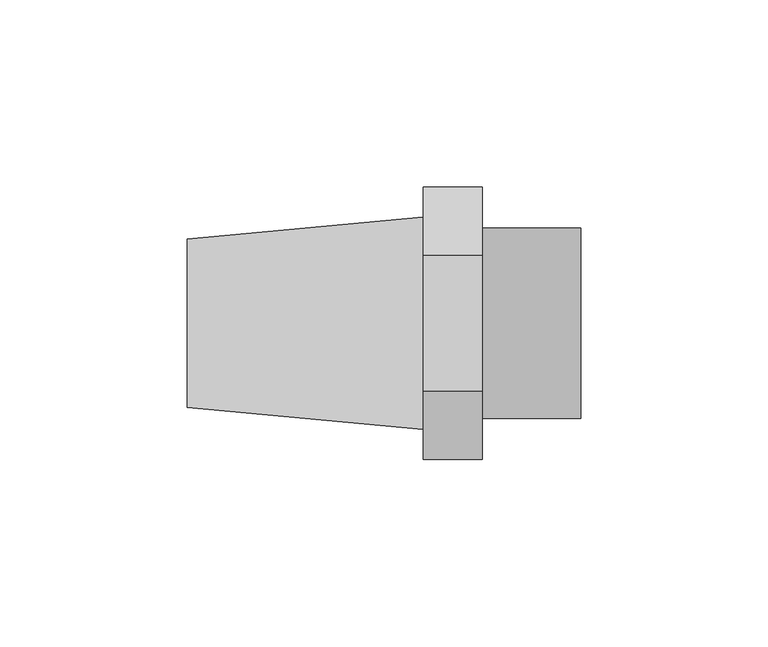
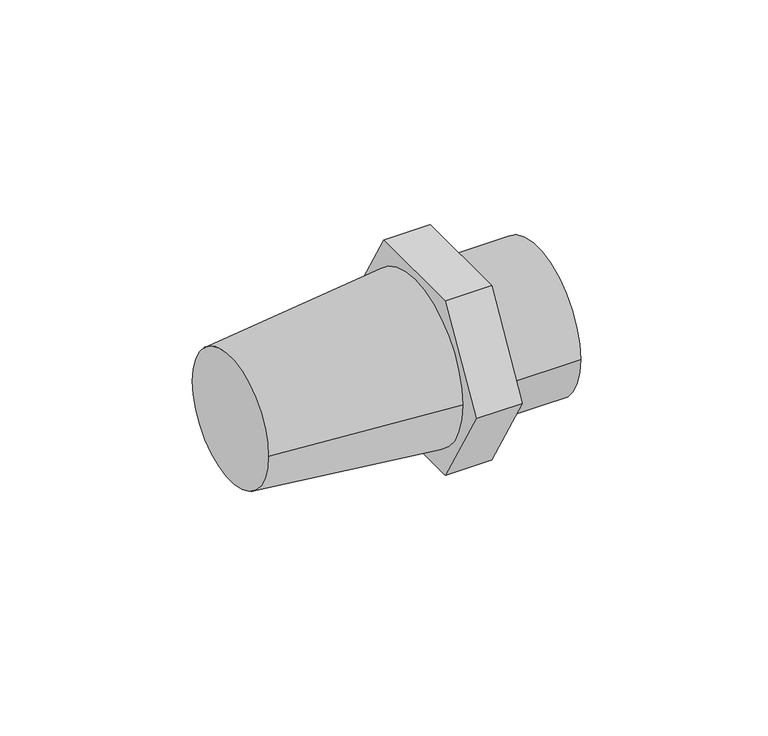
"""IFC4 building model written with IfcOpenShell, lengths in millimetres: pipe fitting geometry, 01011013 : Espiga conexion cónica/roscada."""

from ifc_helpers import new_model, si_unit, frame, origin, place, context, project, spatial, polyline, circle_curve, source, transform, mapped, element, save
from ifc_brep_helpers import plane_surface, cylinder_surface, revolved_surface, advanced_brep


def pipe_fitting_1b6feb72(model_context):
    return source(origin(), model_context, "Body", "AdvancedBrep", [
        advanced_brep(
        [(-52.5, 22.5, 0.0), (-52.5, -22.5, 0.0), (10.5, 28.35, 0.0), (10.5, -28.35, 0.0)],
        [
            (0, 1, circle_curve(frame((-52.5, 0.0, 0.0), z_axis=(-1.0, 0.0, 0.0), x_axis=(0.0, 1.0, 0.0)), 22.5)),
            (1, 0, circle_curve(frame((-52.5, 0.0, 0.0), z_axis=(-1.0, 0.0, 0.0), x_axis=(0.0, -1.0, 0.0)), 22.5)),
            (2, 3, circle_curve(frame((10.5, 0.0, 0.0), z_axis=(1.0, 0.0, 0.0), x_axis=(0.0, -1.0, 0.0)), 28.35)),
            (3, 2, circle_curve(frame((10.5, 0.0, 0.0), z_axis=(1.0, 0.0, 0.0), x_axis=(0.0, 1.0, 0.0)), 28.35)),
            (3, 1),
            (0, 2),
        ],
        [
            plane_surface(frame((-52.5, 0.0, 0.0), z_axis=(-1.0, 0.0, 0.0), x_axis=(0.0, 0.0, -1.0))),
            plane_surface(frame((10.5, 0.0, 0.0), z_axis=(1.0, 0.0, 0.0), x_axis=(0.0, 0.0, -1.0))),
            revolved_surface(polyline([(-52.5, 22.49999999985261, 0.0), (10.5, 28.35, 0.0)]), (-294.8076923, 0.0, 0.0), (1.0, 0.0, 0.0)),
            revolved_surface(polyline([(-52.5, -22.49999999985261, 0.0), (10.5, -28.35, 0.0)]), (-294.8076923, 0.0, 0.0), (1.0, 0.0, 0.0)),
        ],
        [
            (0, [[1, 2]]),
            (1, [[3, 4]]),
            (2, [[-4, 5, -1, 6]]),
            (3, [[-3, -6, -2, -5]]),
        ],
    ),
        advanced_brep(
        [(26.25, -18.1865335, 31.5), (26.25, -36.373067, 0.0), (26.25, -18.1865335, -31.5), (26.25, 18.1865335, -31.5), (26.25, 36.373067, 0.0), (26.25, 18.1865335, 31.5), (26.25, -25.4, 0.0), (26.25, 25.4, 0.0), (10.5, -18.1865335, 31.5), (10.5, 18.1865335, 31.5), (10.5, 36.373067, 0.0), (10.5, 18.1865335, -31.5), (10.5, -18.1865335, -31.5), (10.5, -36.373067, 0.0), (52.5, -25.4, 0.0), (52.5, 25.4, 0.0)],
        [
            (0, 1),
            (1, 2),
            (2, 3),
            (3, 4),
            (4, 5),
            (5, 0),
            (6, 7, circle_curve(frame((26.25, 0.0, 0.0), z_axis=(-1.0, 0.0, 0.0), x_axis=(0.0, 1.0, 0.0)), 25.4)),
            (7, 6, circle_curve(frame((26.25, 0.0, 0.0), z_axis=(-1.0, 0.0, 0.0), x_axis=(0.0, 1.0, 0.0)), 25.4)),
            (8, 9),
            (9, 10),
            (10, 11),
            (11, 12),
            (12, 13),
            (13, 8),
            (0, 8),
            (13, 1),
            (12, 2),
            (11, 3),
            (10, 4),
            (9, 5),
            (14, 15, circle_curve(frame((52.5, 0.0, 0.0), z_axis=(1.0, 0.0, 0.0), x_axis=(0.0, 1.0, 0.0)), 25.4)),
            (15, 14, circle_curve(frame((52.5, 0.0, 0.0), z_axis=(1.0, 0.0, 0.0), x_axis=(0.0, 1.0, 0.0)), 25.4)),
            (15, 7),
            (6, 14),
        ],
        [
            plane_surface(frame((26.25, -18.1865335, 31.5), z_axis=(1.0, 0.0, 0.0), x_axis=(0.0, -0.5000000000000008, -0.8660254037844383))),
            plane_surface(frame((10.5, -18.1865335, 31.5), z_axis=(-1.0, 0.0, 0.0), x_axis=(0.0, 0.5000000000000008, 0.8660254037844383))),
            plane_surface(frame((26.25, -18.1865335, 31.5), z_axis=(0.0, -0.8660254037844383, 0.5000000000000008), x_axis=(-1.0, 0.0, 0.0))),
            plane_surface(frame((26.25, -36.373067, 0.0), z_axis=(0.0, -0.8660254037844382, -0.5000000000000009), x_axis=(-1.0, 0.0, 0.0))),
            plane_surface(frame((26.25, -18.1865335, -31.5), z_axis=(0.0, 0.0, -1.0), x_axis=(-1.0, 0.0, 0.0))),
            plane_surface(frame((26.25, 18.1865335, -31.5), z_axis=(0.0, 0.8660254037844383, -0.5000000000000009), x_axis=(-1.0, 0.0, 0.0))),
            plane_surface(frame((26.25, 36.373067, 0.0), z_axis=(0.0, 0.8660254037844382, 0.500000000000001), x_axis=(-1.0, 0.0, 0.0))),
            plane_surface(frame((26.25, 18.1865335, 31.5), z_axis=(0.0, 0.0, 1.0), x_axis=(-1.0, 0.0, 0.0))),
            plane_surface(frame((52.5, 0.0, 0.0), z_axis=(1.0, 0.0, 0.0), x_axis=(0.0, 0.0, 1.0))),
            cylinder_surface(frame((26.25, 0.0, 0.0), z_axis=(-1.0, 0.0, 0.0), x_axis=(0.0, 1.0, 0.0)), 25.4),
        ],
        [
            (0, [[1, 2, 3, 4, 5, 6], [7, 8]]),
            (1, [[9, 10, 11, 12, 13, 14]]),
            (2, [[-1, 15, -14, 16]]),
            (3, [[-2, -16, -13, 17]]),
            (4, [[-3, -17, -12, 18]]),
            (5, [[-4, -18, -11, 19]]),
            (6, [[-5, -19, -10, 20]]),
            (7, [[-6, -20, -9, -15]]),
            (8, [[21, 22]]),
            (9, [[-22, 23, -7, 24]]),
            (9, [[-21, -24, -8, -23]]),
        ],
    ),
    ])


if __name__ == "__main__":
    model = new_model("IFC4")
    model_context = context("Model", 3, world=origin())
    ifc_project = project(units=[si_unit("LENGTHUNIT", "METRE", prefix="MILLI")], contexts=[model_context])
    site = spatial("IfcSite", under=ifc_project)
    building = spatial("IfcBuilding", under=site)
    placement = place(None, origin())
    pipe_fitting_shape = pipe_fitting_1b6feb72(model_context)
    element("IfcPipeFitting", 1, ObjectType="01011013 : Espiga conexion cónica/roscada", at=placement, inside=building, context=model_context, shape_type="MappedRepresentation", body=[
        mapped(pipe_fitting_shape, transform((0.0, 0.0, 0.0), x_axis=(1.0, 0.0, 0.0), y_axis=(0.0, 1.0, 0.0), z_axis=(0.0, 0.0, 1.0))),
    ])
    save(model, "model.ifc")
